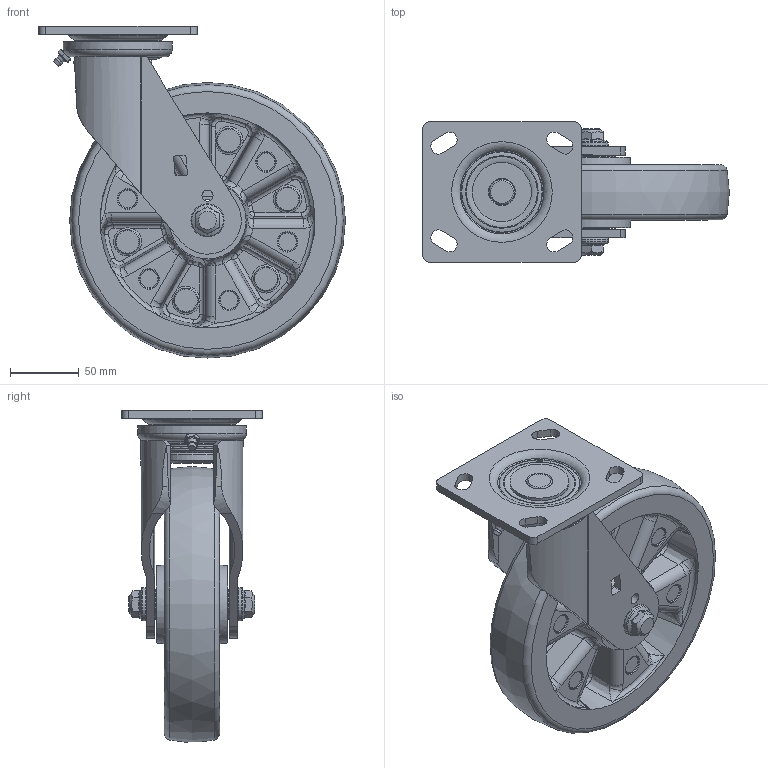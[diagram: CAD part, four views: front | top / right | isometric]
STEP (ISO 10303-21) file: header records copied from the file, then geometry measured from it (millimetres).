
FILE_DESCRIPTION((''),'2;1');
FILE_NAME('C:\Documents and Settings\Administrator\바탕 화면\3D STEP\GH-SERIES\GH-200\GH-200A-SF.stp','2010-12-27T14:26:03',('Administrator'),(''),'Autodesk Inventor 2009','Autodesk Inventor 2009','');
FILE_SCHEMA(('AUTOMOTIVE_DESIGN { 1 0 10303 214 1 1 1 1 }'));
Length unit declared in the file: millimetre
Products named in the file (1): GH-200A-SF
Bounding box: 222.5 x 102 x 240.82 mm (x, y, z)
Volume: 826150.1 mm3; surface area: 243991.6 mm2
Topology: 5 solids, 29 shells, 858 faces, 2245 edges, 1385 vertices
Faces by surface type: bspline 352, plane 195, cylinder 131, torus 65, sphere 64, cone 51
Full cylindrical faces by diameter (mm): 8 x2, 12 x1, 15 x2, 15.2 x2, 18.5 x2, 21.5 x1, 22 x1, 24 x2, 29.997 x1, 30 x1, 30.5 x2, 31.615 x2, 35 x4, 38.999 x1, 41.192 x1, 42.8 x1, 44 x2, 48.961 x2, 61.087 x1, 63.14 x1, 65.14 x1, 69 x1, 79 x1
Entity records: 46368 total; most frequent: CARTESIAN_POINT 29222, ORIENTED_EDGE 3618, DIRECTION 3148, EDGE_CURVE 1809, AXIS2_PLACEMENT_3D 1416, VERTEX_POINT 1199, EDGE_LOOP 1152, CIRCLE 859
